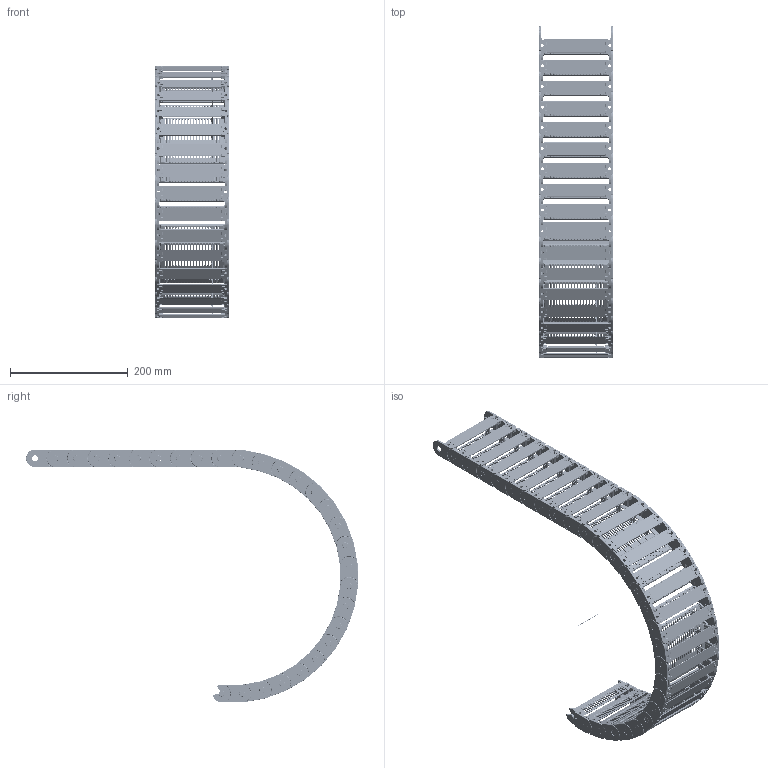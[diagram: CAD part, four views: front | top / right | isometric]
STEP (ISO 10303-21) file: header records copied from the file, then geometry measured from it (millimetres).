
FILE_DESCRIPTION((''),'2;1');
FILE_NAME('C:\Uebbing\PARAMETERKETTEN\KOLIBRI\Kol_30_125_1\Kol 30_125_1_R200.stp','2012-03-05T12:42:31',('Uebbing'),(''),'Autodesk Inventor 10','Autodesk Inventor 10','');
FILE_SCHEMA(('AUTOMOTIVE_DESIGN { 1 0 10303 214 1 1 1 1 }'));
Length unit declared in the file: millimetre
Products named in the file (6): KOLIBRI 30_125_1_PARAMETRISCH; Achse; Kol_30_125_1; PZ 30 Stecksteg; Kol 30_125_1 Lasche; Kol_30_125_0_Klappsteg
Assembly tree (32 placements, depth 3):
  KOLIBRI 30_125_1_PARAMETRISCH
    Achse
    Kol_30_125_1  x28
      PZ 30 Stecksteg
      Kol 30_125_1 Lasche
      Kol_30_125_0_Klappsteg
Bounding box: 125 x 564.07 x 430 mm (x, y, z)
Volume: 628406.8 mm3; surface area: 637920.2 mm2
Topology: 85 solids, 85 shells, 21843 faces, 61660 edges, 40183 vertices
Faces by surface type: plane 10866, bspline 5208, cylinder 4845, torus 672, cone 168, sphere 84
Full cylindrical faces by diameter (mm): 1 x1, 1.166 x28, 2.048 x28, 2.8 x168, 5.1 x28, 10 x28, 10.1 x28
Entity records: 28489 total; most frequent: CARTESIAN_POINT 8245, ORIENTED_EDGE 4324, DIRECTION 3992, EDGE_CURVE 2162, VECTOR 1442, LINE 1442, VERTEX_POINT 1424, AXIS2_PLACEMENT_3D 1275
